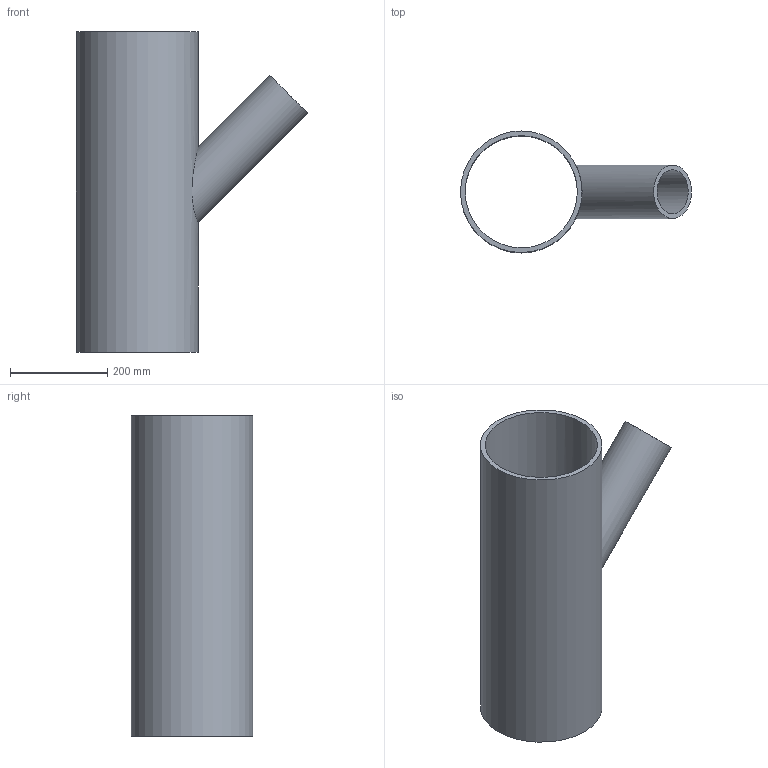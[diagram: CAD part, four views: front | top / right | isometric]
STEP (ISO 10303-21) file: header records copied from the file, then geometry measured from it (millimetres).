
FILE_DESCRIPTION(/* description */ (''),/* implementation_level */ '2;1');
FILE_NAME(/* name */ 'C:\Planerdaten\Export PLA\PRO_101557\stp\371135.stp',/* time_stamp */ '2021-09-30T15:09:08+02:00',/* author */ ('JANAN'),/* organization */ (''),/* preprocessor_version */ 'ST-DEVELOPER v16.13',/* originating_system */ 'Autodesk Inventor 2018',/* authorisation */ '');
FILE_SCHEMA (('AUTOMOTIVE_DESIGN { 1 0 10303 214 3 1 1 }'));
Length unit declared in the file: millimetre
Products named in the file (1): tmp2C91.tmp
Bounding box: 475.02 x 250 x 660 mm (x, y, z)
Volume: 5570747.1 mm3; surface area: 1165832 mm2
Topology: 1 solids, 1 shells, 7 faces, 17 edges, 12 vertices
Faces by surface type: cylinder 4, plane 3
Full cylindrical faces by diameter (mm): 90.6 x1, 110 x1, 230.6 x1, 250 x1
Entity records: 324 total; most frequent: CARTESIAN_POINT 146, DIRECTION 28, EDGE_LOOP 16, ORIENTED_EDGE 16, AXIS2_PLACEMENT_3D 14, FACE_BOUND 9, VERTEX_POINT 8, EDGE_CURVE 8
